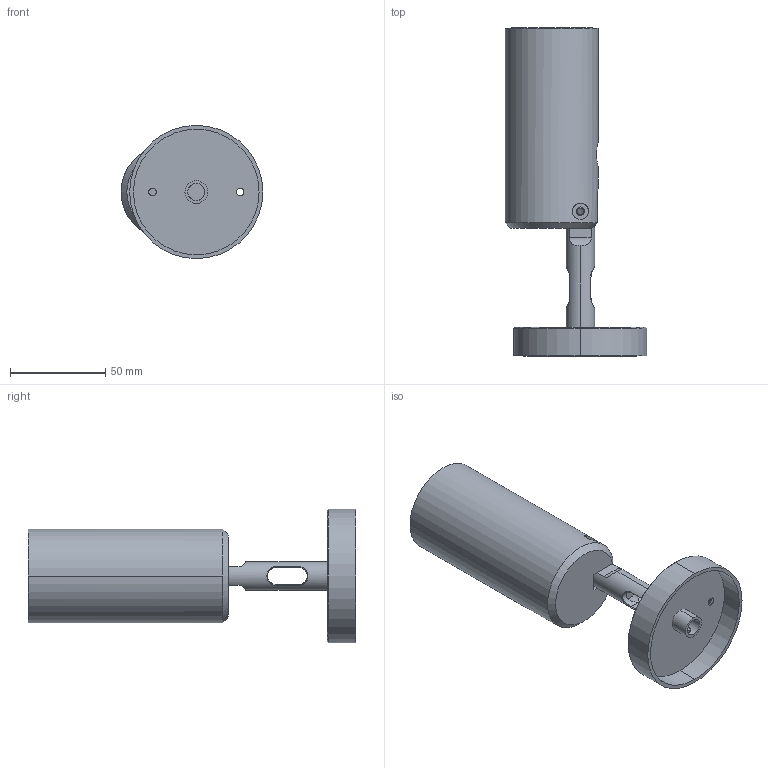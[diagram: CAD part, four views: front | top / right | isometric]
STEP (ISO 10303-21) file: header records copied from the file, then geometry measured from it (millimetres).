
FILE_DESCRIPTION((''),'2;1');
FILE_NAME('POWER_SW0001','2025-05-22T17:14:46',('elena.baldelli'),(''),'CREO PARAMETRIC BY PTC INC, 2020354','CREO PARAMETRIC BY PTC INC, 2020354','');
FILE_SCHEMA(('CONFIG_CONTROL_DESIGN'));
Length unit declared in the file: millimetre
Products named in the file (1): POWER_SW0001
Bounding box: 74.5 x 172.3 x 70 mm (x, y, z)
Surface area: 48744.8 mm2 (no closed solid volume)
Topology: 0 solids, 13 shells, 104 faces, 441 edges, 346 vertices
Faces by surface type: plane 47, cylinder 40, cone 9, bspline 6, revolution 2
Entity records: 6832 total; most frequent: CARTESIAN_POINT 3211, DIRECTION 736, ORIENTED_EDGE 639, EDGE_CURVE 441, VERTEX_POINT 346, AXIS2_PLACEMENT_3D 247, VECTOR 240, LINE 240
